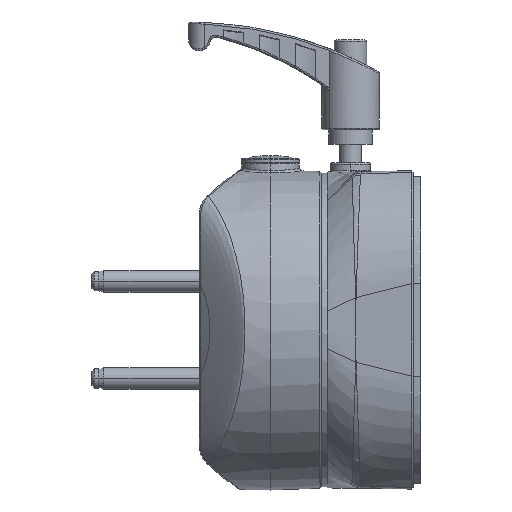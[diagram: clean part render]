
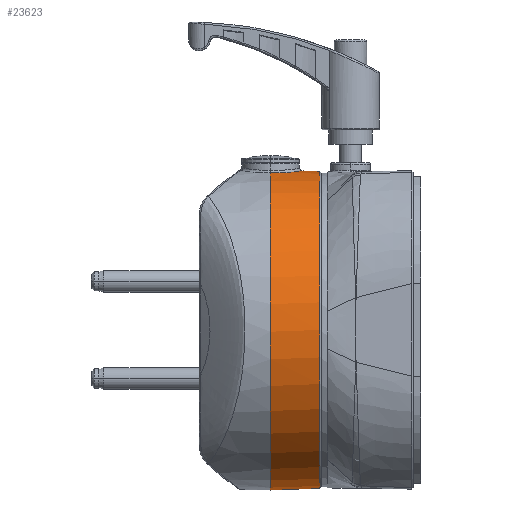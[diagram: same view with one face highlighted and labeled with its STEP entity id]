
A CAD part, left-side view. The second image highlights one B-rep face of the part: STEP entity #23623.
In plain terms, the highlighted conical face has half-angle 1.975 degrees and reference radius 44.264 mm.
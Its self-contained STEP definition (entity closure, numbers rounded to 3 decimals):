
#6269=CARTESIAN_POINT('',(-8.65,-9.8,
43.651));
#6270=CARTESIAN_POINT('',(-8.649,-10.377,
43.631));
#6271=CARTESIAN_POINT('',(-8.536,-11.507,
43.614));
#6272=CARTESIAN_POINT('',(-8.043,-13.161,
43.651));
#6273=CARTESIAN_POINT('',(-7.241,-14.684,
43.74));
#6274=CARTESIAN_POINT('',(-6.163,-16.021,
43.86));
#6275=CARTESIAN_POINT('',(-4.847,-17.118,
43.989));
#6276=CARTESIAN_POINT('',(-3.378,-17.924,
44.1));
#6277=CARTESIAN_POINT('',(-1.726,-18.443,
44.179));
#6278=CARTESIAN_POINT('',(-0.586,-18.56,
44.198));
#6279=CARTESIAN_POINT('',(0.,-18.56,
44.198));
#6284=DIRECTION('',(0.,0.999,0.034));
#6285=VECTOR('',#6284,4.943);
#6286=CARTESIAN_POINT('',(0.,-23.5,
44.028));
#6287=LINE('',#6286,#6285);
#6291=CARTESIAN_POINT('',(0.,-23.5,0.));
#6292=DIRECTION('',(0.,1.,0.));
#6293=DIRECTION('',(0.,0.,-1.));
#6294=AXIS2_PLACEMENT_3D('',#6291,#6292,#6293);
#6299=DIRECTION('',(0.,0.999,-0.034));
#6300=VECTOR('',#6299,13.709);
#6301=CARTESIAN_POINT('',(0.,-23.5,
-44.028));
#6302=LINE('',#6301,#6300);
#6670=CARTESIAN_POINT('',(0.,-9.8,0.));
#6671=DIRECTION('',(0.,1.,0.));
#6672=DIRECTION('',(0.,0.,-1.));
#6673=AXIS2_PLACEMENT_3D('',#6670,#6671,#6672);
#7048=CARTESIAN_POINT('',(0.,-18.56,
44.198));
#15864=CARTESIAN_POINT('',(0.,-23.5,-44.028));
#15865=CARTESIAN_POINT('',(0.,-23.5,
44.028));
#15866=VERTEX_POINT('',#15864);
#15867=VERTEX_POINT('',#15865);
#15868=VERTEX_POINT('',#7048);
#15873=VERTEX_POINT('',#6269);
#16000=CARTESIAN_POINT('',(0.,-9.8,-44.5));
#16001=VERTEX_POINT('',#16000);
#23607=CARTESIAN_POINT('',(0.,-16.65,0.));
#23608=DIRECTION('',(0.,1.,0.));
#23609=DIRECTION('',(0.,0.,-1.));
#23610=AXIS2_PLACEMENT_3D('',#23607,#23608,#23609);
#23611=CONICAL_SURFACE('',#23610,44.264,1.975);
#23613=ORIENTED_EDGE('',*,*,#23612,.T.);
#23615=ORIENTED_EDGE('',*,*,#23614,.F.);
#23616=ORIENTED_EDGE('',*,*,#23594,.F.);
#23618=ORIENTED_EDGE('',*,*,#23617,.T.);
#23620=ORIENTED_EDGE('',*,*,#23619,.T.);
#23621=EDGE_LOOP('',(#23613,#23615,#23616,#23618,#23620));
#23622=FACE_OUTER_BOUND('',#23621,.F.);
#6280=B_SPLINE_CURVE_WITH_KNOTS('',3,(#6269,#6270,#6271,#6272,#6273,#6274,#6275,
#6276,#6277,#6278,#6279),.UNSPECIFIED.,.F.,.F.,(4,1,1,1,1,1,1,1,4),(0.,
0.125,0.25,0.375,0.5,0.625,0.75,0.875,1.),.UNSPECIFIED.);
#6295=CIRCLE('',#6294,44.028);
#6674=CIRCLE('',#6673,44.5);
#23594=EDGE_CURVE('',#15866,#15867,#6295,.T.);
#23612=EDGE_CURVE('',#15873,#15868,#6280,.T.);
#23614=EDGE_CURVE('',#15867,#15868,#6287,.T.);
#23617=EDGE_CURVE('',#15866,#16001,#6302,.T.);
#23619=EDGE_CURVE('',#16001,#15873,#6674,.T.);
#23623=ADVANCED_FACE('',(#23622),#23611,.T.);
